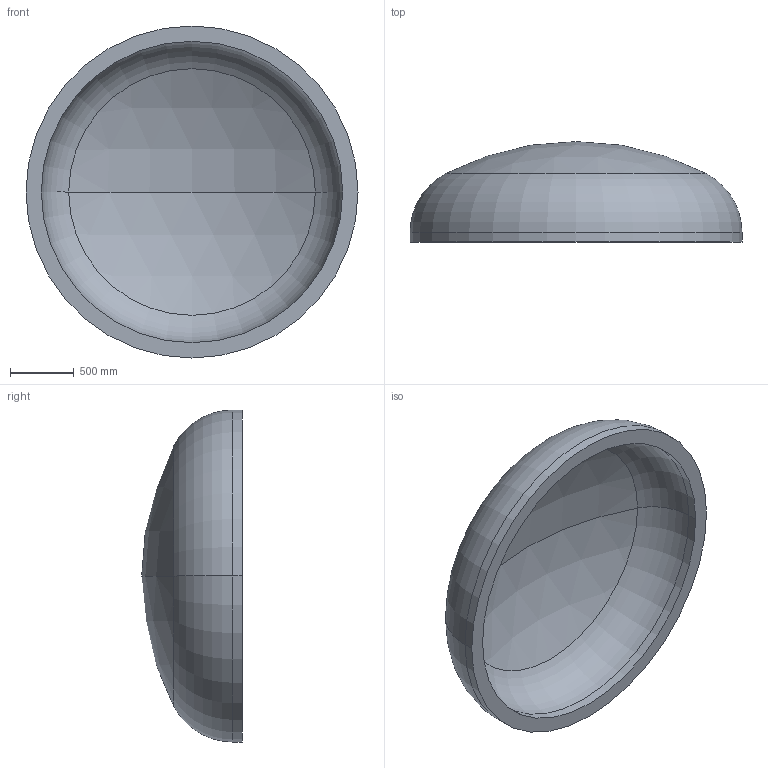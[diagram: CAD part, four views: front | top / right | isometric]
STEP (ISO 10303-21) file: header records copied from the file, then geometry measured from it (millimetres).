
FILE_DESCRIPTION (( 'STEP AP203' ), '1' );
FILE_NAME ('DIN 28013 Korbbogenform_-_Boden DIN 28013 - 2600 x 75 - I - s=120.step', '2016-07-01T16:36:48', ( '' ), ( '' ), 'SwSTEP 2.0', 'SolidWorks 2013', '' );
FILE_SCHEMA (( 'CONFIG_CONTROL_DESIGN' ));
Length unit declared in the file: millimetre
Products named in the file (1): DIN 28013 Korbbogenform_-_Boden DIN 28013 - 2600 x 75 - I - s=120
Bounding box: 2600 x 787.05 x 2600 mm (x, y, z)
Volume: 901377049.7 mm3; surface area: 15988043.6 mm2
Topology: 1 solids, 1 shells, 13 faces, 24 edges, 14 vertices
Faces by surface type: torus 4, cylinder 4, sphere 4, plane 1
Entity records: 407 total; most frequent: DIRECTION 72, CARTESIAN_POINT 52, ORIENTED_EDGE 48, AXIS2_PLACEMENT_3D 34, EDGE_CURVE 24, CIRCLE 20, EDGE_LOOP 14, VERTEX_POINT 14
